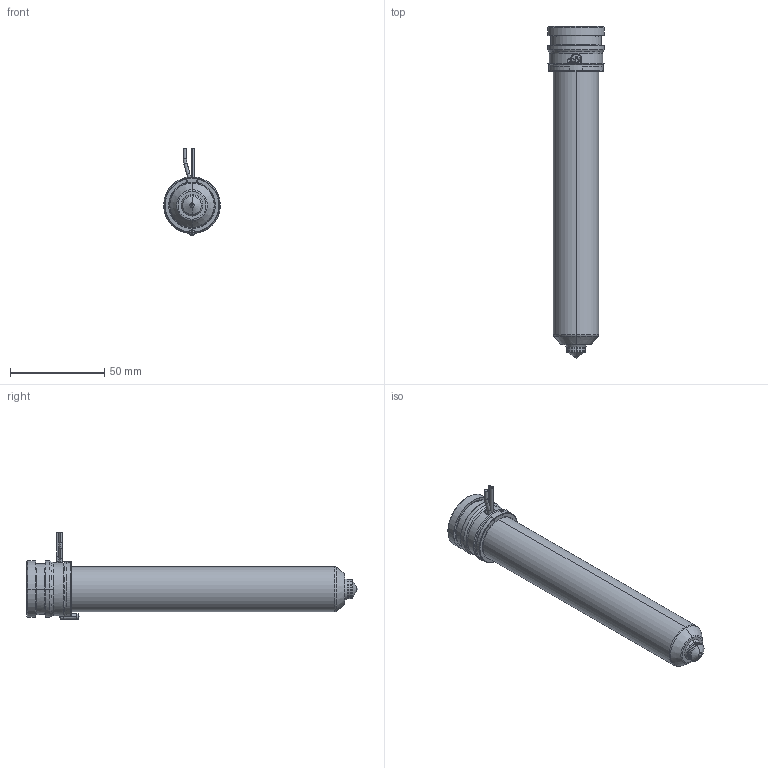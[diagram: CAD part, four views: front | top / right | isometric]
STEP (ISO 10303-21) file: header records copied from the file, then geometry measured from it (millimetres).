
FILE_DESCRIPTION((''),'2;1');
FILE_NAME('MPN-10-29-TS10-156-A','2026-02-05T12:33:39',('UPTIO'),('Thermoplay S.p.A.'),'CREO PARAMETRIC BY PTC INC, 2023494','CREO PARAMETRIC BY PTC INC, 2023494','');
FILE_SCHEMA(('CONFIG_CONTROL_DESIGN','SHAPE_APPEARANCE_LAYERS_GROUPS'));
Length unit declared in the file: millimetre
Products named in the file (1): MPN-10-29-TS10-156-A
Bounding box: 30 x 176 x 46 mm (x, y, z)
Volume: 54957.7 mm3; surface area: 55404.3 mm2
Topology: 2 solids, 3 shells, 552 faces, 1455 edges, 898 vertices
Faces by surface type: cylinder 180, plane 145, bspline 78, torus 68, cone 66, sphere 11, extrusion 4
Entity records: 31300 total; most frequent: CARTESIAN_POINT 14921, ORIENTED_EDGE 2894, DIRECTION 2651, EDGE_CURVE 1447, AXIS2_PLACEMENT_3D 1051, VERTEX_POINT 898, EDGE_LOOP 581, CIRCLE 580
